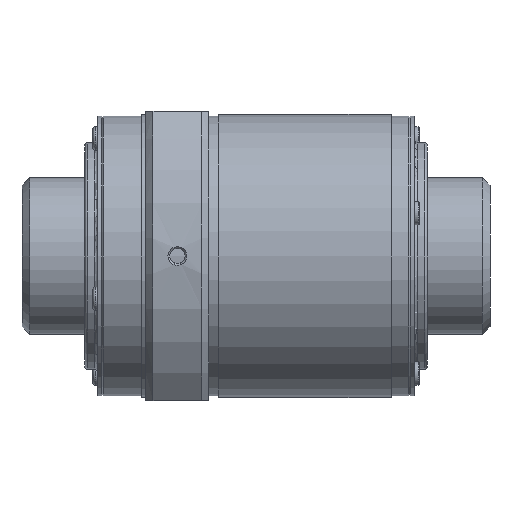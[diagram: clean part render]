
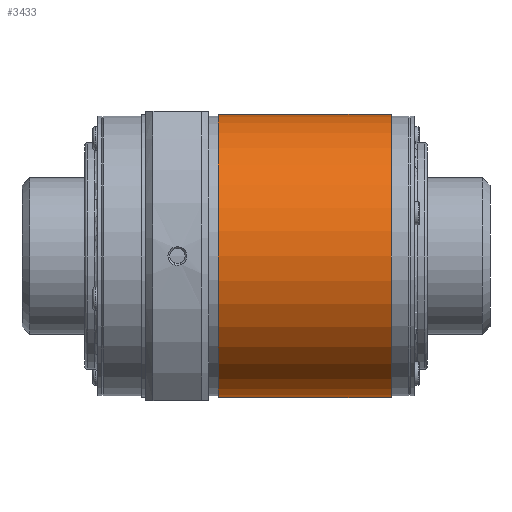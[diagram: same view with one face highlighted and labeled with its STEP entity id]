
A CAD part, front view. The second image highlights one B-rep face of the part: STEP entity #3433.
In plain terms, the highlighted cylindrical face has radius 45 mm (diameter 90 mm), a full revolution.
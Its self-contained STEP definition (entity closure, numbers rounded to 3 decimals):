
#951=ORIENTED_EDGE('',*,*,#1899,.T.);
#952=ORIENTED_EDGE('',*,*,#1898,.F.);
#1898=EDGE_CURVE('',#2373,#2373,#2702,.T.);
#1899=EDGE_CURVE('',#2374,#2374,#2703,.T.);
#2373=VERTEX_POINT('',#5285);
#2374=VERTEX_POINT('',#5288);
#2702=CIRCLE('',#3712,45.);
#2703=CIRCLE('',#3714,45.);
#2851=EDGE_LOOP('',(#951));
#2852=EDGE_LOOP('',(#952));
#3127=FACE_BOUND('',#2851,.T.);
#3128=FACE_BOUND('',#2852,.T.);
#3356=CYLINDRICAL_SURFACE('',#3713,45.);
#3433=ADVANCED_FACE('',(#3127,#3128),#3356,.T.);
#3712=AXIS2_PLACEMENT_3D('',#5284,#4144,#4145);
#3713=AXIS2_PLACEMENT_3D('',#5286,#4146,#4147);
#3714=AXIS2_PLACEMENT_3D('',#5287,#4148,#4149);
#4144=DIRECTION('',(1.,0.,0.));
#4145=DIRECTION('',(0.,0.,-1.));
#4146=DIRECTION('',(1.,0.,0.));
#4147=DIRECTION('',(0.,0.,-1.));
#4148=DIRECTION('',(1.,0.,0.));
#4149=DIRECTION('',(0.,0.,-1.));
#5284=CARTESIAN_POINT('',(92.,0.,0.));
#5285=CARTESIAN_POINT('',(92.,0.,-45.));
#5286=CARTESIAN_POINT('',(98.,0.,0.));
#5287=CARTESIAN_POINT('',(37.,0.,0.));
#5288=CARTESIAN_POINT('',(37.,0.,-45.));
